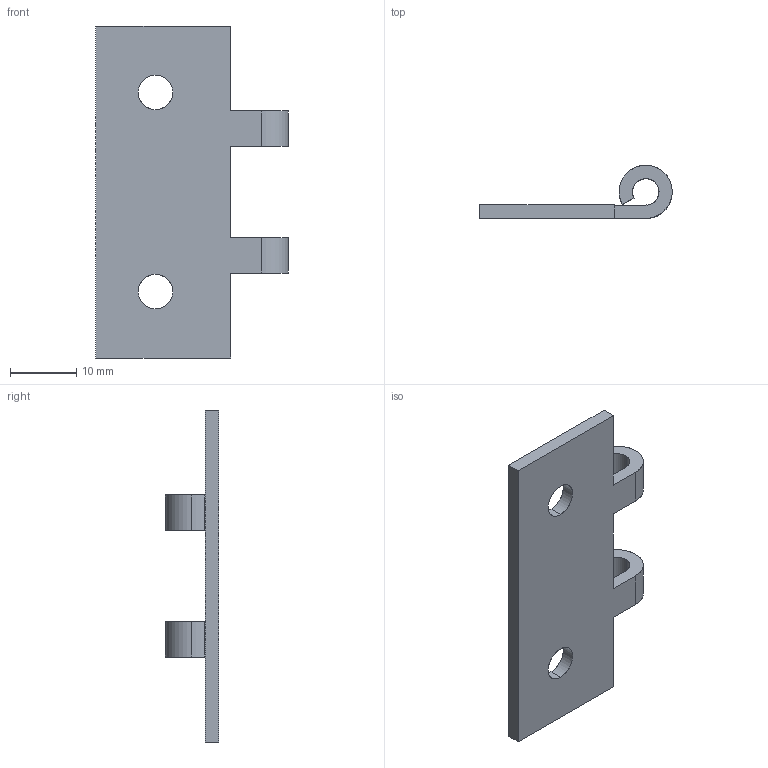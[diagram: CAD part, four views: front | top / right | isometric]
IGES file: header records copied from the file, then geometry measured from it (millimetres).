
Start section: SolidWorks IGES file using analytic representation for surfaces
Global section: file name: C:\Users\cbrechard\Desktop\CC 1422 E\1422.020.00.IGS; native system: SolidWorks 2008; preprocessor: SolidWorks 2008; author: cbrechard; date: 120123.145632; units: millimetre
Bounding box: 29 x 8 x 50 mm (x, y, z)
Surface area: 2885 mm2 (no closed solid volume)
Topology: 0 solids, 0 shells, 30 faces, 472 edges, 472 vertices
Faces by surface type: revolution 16, bspline 14
